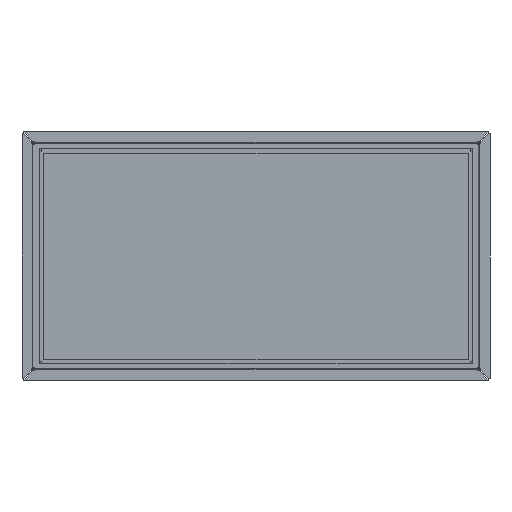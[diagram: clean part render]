
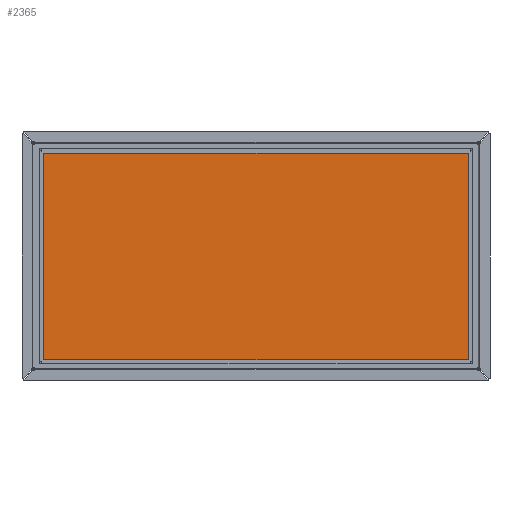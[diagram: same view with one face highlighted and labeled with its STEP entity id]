
A CAD part, front view. The second image highlights one B-rep face of the part: STEP entity #2365.
In plain terms, the highlighted planar face has unit normal (0, -1, 0).
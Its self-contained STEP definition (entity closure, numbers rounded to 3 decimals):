
#241=FACE_OUTER_BOUND('',#396,.T.);
#396=EDGE_LOOP('',(#1675,#1676,#1677,#1678,#1679));
#522=LINE('',#3508,#756);
#525=LINE('',#3580,#759);
#526=LINE('',#3583,#760);
#557=LINE('',#3741,#791);
#578=LINE('',#4296,#812);
#756=VECTOR('',#2761,283.);
#759=VECTOR('',#2766,10.);
#760=VECTOR('',#2769,283.);
#791=VECTOR('',#2850,10.);
#812=VECTOR('',#2897,10.);
#986=VERTEX_POINT('',#3499);
#990=VERTEX_POINT('',#3506);
#994=VERTEX_POINT('',#3577);
#995=VERTEX_POINT('',#3582);
#1028=VERTEX_POINT('',#3738);
#1196=EDGE_CURVE('',#990,#986,#522,.T.);
#1201=EDGE_CURVE('',#986,#994,#525,.T.);
#1202=EDGE_CURVE('',#994,#995,#526,.T.);
#1247=EDGE_CURVE('',#1028,#990,#557,.T.);
#1277=EDGE_CURVE('',#1028,#995,#578,.T.);
#1675=ORIENTED_EDGE('',*,*,#1247,.F.);
#1676=ORIENTED_EDGE('',*,*,#1277,.T.);
#1677=ORIENTED_EDGE('',*,*,#1202,.F.);
#1678=ORIENTED_EDGE('',*,*,#1201,.F.);
#1679=ORIENTED_EDGE('',*,*,#1196,.F.);
#2266=PLANE('',#2541);
#2365=ADVANCED_FACE('',(#241),#2266,.F.);
#2541=AXIS2_PLACEMENT_3D('',#4298,#2900,#2901);
#2761=DIRECTION('',(0.,0.,1.));
#2766=DIRECTION('',(1.,0.,0.));
#2769=DIRECTION('',(0.,0.,-1.));
#2850=DIRECTION('',(0.,0.,1.));
#2897=DIRECTION('',(1.,0.,0.));
#2900=DIRECTION('center_axis',(0.,1.,0.));
#2901=DIRECTION('ref_axis',(0.,0.,1.));
#3499=CARTESIAN_POINT('',(2669.443,-9.6,62.487));
#3506=CARTESIAN_POINT('',(2669.443,-9.6,-219.513));
#3508=CARTESIAN_POINT('',(2669.443,-9.6,-220.513));
#3577=CARTESIAN_POINT('',(3252.443,-9.6,62.487));
#3580=CARTESIAN_POINT('',(2669.443,-9.6,62.487));
#3582=CARTESIAN_POINT('',(3252.443,-9.6,-220.513));
#3583=CARTESIAN_POINT('',(3252.443,-9.6,62.487));
#3738=CARTESIAN_POINT('',(2669.443,-9.6,-220.513));
#3741=CARTESIAN_POINT('',(2669.443,-9.6,-220.513));
#4296=CARTESIAN_POINT('',(3251.443,-9.6,-220.513));
#4298=CARTESIAN_POINT('Origin',(2810.943,-9.6,67.107));
